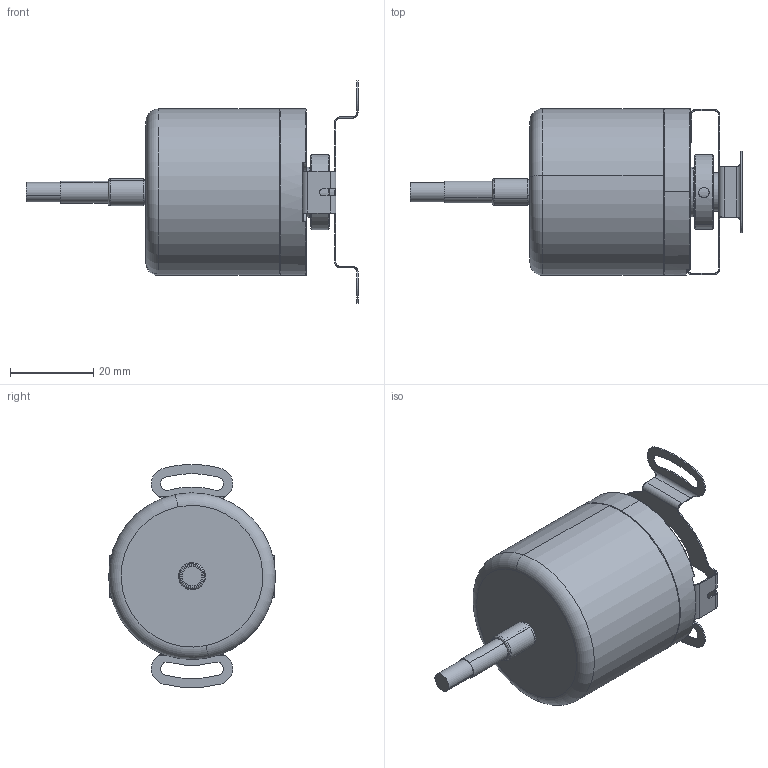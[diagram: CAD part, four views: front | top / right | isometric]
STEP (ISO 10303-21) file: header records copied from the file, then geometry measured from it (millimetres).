
FILE_DESCRIPTION (( 'STEP AP214' ), '1' );
FILE_NAME ('8_KIH40_54X1_XXXX.STEP', '2015-02-03T05:00:34', ( '' ), ( '' ), 'SwSTEP 2.0', 'SolidWorks 2013', '' );
FILE_SCHEMA (( 'AUTOMOTIVE_DESIGN' ));
Length unit declared in the file: millimetre
Products named in the file (11): Sleeve; KIN503000_0_cover_axial; KIN511000_0_Oring; KIN141000_0_Cable_8core; KIN620000_0_hollowrivet; T030805_Feder_gebogen_f黵_3720~6_Standard; KIN600000_0_clampring; KIN607350_0_hollowshaft; KIN608200_0_bearingRSZ_19x10x5; KIN608600_2_flange_HS; 8_KIH40_54X1_XXXX
Assembly tree (10 placements, depth 2):
  8_KIH40_54X1_XXXX
    KIN608600_2_flange_HS
    KIN608200_0_bearingRSZ_19x10x5
    KIN607350_0_hollowshaft
    KIN600000_0_clampring
    T030805_Feder_gebogen_f黵_3720~6_Standard
    KIN620000_0_hollowrivet
    KIN141000_0_Cable_8core
    KIN511000_0_Oring
    KIN503000_0_cover_axial
    Sleeve
Bounding box: 79.7 x 40 x 53.5 mm (x, y, z)
Volume: 22290.5 mm3; surface area: 24073.1 mm2
Topology: 10 solids, 11 shells, 540 faces, 1370 edges, 826 vertices
Faces by surface type: cylinder 192, plane 113, torus 76, bspline 64, cone 58, sphere 37
Entity records: 19766 total; most frequent: CARTESIAN_POINT 6620, DIRECTION 2664, ORIENTED_EDGE 2596, EDGE_CURVE 1298, AXIS2_PLACEMENT_3D 1118, VERTEX_POINT 796, CIRCLE 629, EDGE_LOOP 606
